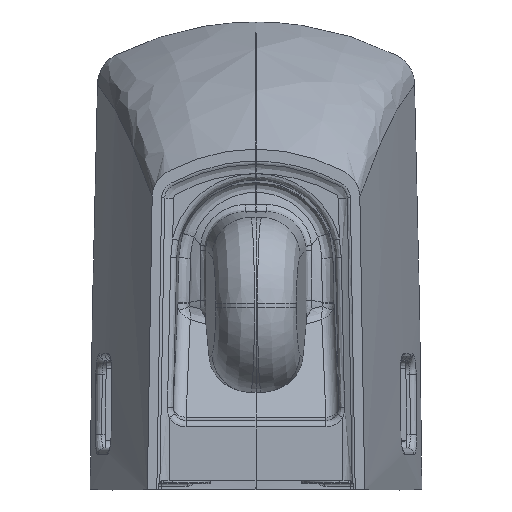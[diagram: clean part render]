
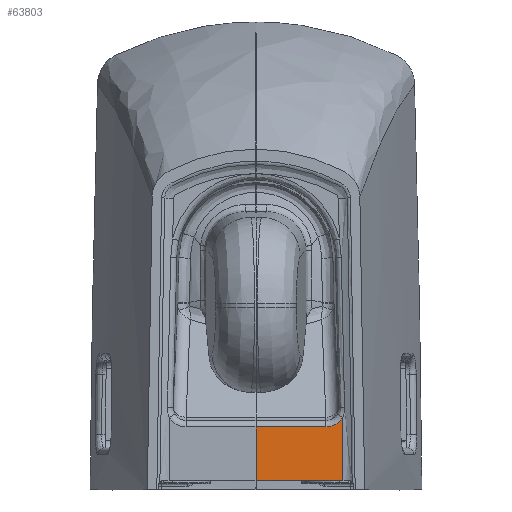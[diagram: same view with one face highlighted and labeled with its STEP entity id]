
A CAD part, front view. The second image highlights one B-rep face of the part: STEP entity #63803.
In plain terms, the highlighted planar face has unit normal (0, -1, 0).
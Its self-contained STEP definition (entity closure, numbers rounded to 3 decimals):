
#101 = EDGE_CURVE ( 'NONE', #79895, #5814, #17156, .T. ) ;
#392 = ORIENTED_EDGE ( 'NONE', *, *, #41656, .T. ) ;
#1113 = CARTESIAN_POINT ( 'NONE',  ( 448.984, -92.174, 231.972 ) ) ;
#1466 = DIRECTION ( 'NONE',  ( 0., -1., 0. ) ) ;
#1927 = CARTESIAN_POINT ( 'NONE',  ( 448.984, -92.174, 51.233 ) ) ;
#2162 = CARTESIAN_POINT ( 'NONE',  ( 542.601, -92.174, 61.585 ) ) ;
#2798 = CARTESIAN_POINT ( 'NONE',  ( 539.483, -92.174, 57.519 ) ) ;
#3451 = CARTESIAN_POINT ( 'NONE',  ( 534.522, -92.174, 53.773 ) ) ;
#3524 = CARTESIAN_POINT ( 'NONE',  ( 542.766, -92.174, 38.469 ) ) ;
#4121 = CARTESIAN_POINT ( 'NONE',  ( 530.579, -92.174, 52.13 ) ) ;
#4778 = CARTESIAN_POINT ( 'NONE',  ( 529.857, -92.174, 51.928 ) ) ;
#5814 = VERTEX_POINT ( 'NONE', #38667 ) ;
#8647 = CARTESIAN_POINT ( 'NONE',  ( 524.499, -92.174, 51.233 ) ) ;
#10566 = CARTESIAN_POINT ( 'NONE',  ( 539.405, -92.174, 57.439 ) ) ;
#11224 = CARTESIAN_POINT ( 'NONE',  ( 533.906, -92.174, 53.448 ) ) ;
#11292 = CARTESIAN_POINT ( 'NONE',  ( 542.601, -92.174, 61.585 ) ) ;
#11415 = B_SPLINE_CURVE_WITH_KNOTS ( 'NONE', 3,
 ( #33880, #34210, #3524, #11292 ),
 .UNSPECIFIED., .F., .F.,
 ( 4, 4 ),
 ( 0., 1. ),
 .UNSPECIFIED. ) ;
#11445 = VERTEX_POINT ( 'NONE', #84463 ) ;
#12683 = LINE ( 'NONE', #15769, #91061 ) ;
#12875 = CARTESIAN_POINT ( 'NONE',  ( 524.499, -92.174, 51.233 ) ) ;
#14776 = DIRECTION ( 'NONE',  ( -1., 0., 0. ) ) ;
#15769 = CARTESIAN_POINT ( 'NONE',  ( 334.98, -92.174, -6.766 ) ) ;
#16606 = DIRECTION ( 'NONE',  ( 0., 0., -1. ) ) ;
#17156 = LINE ( 'NONE', #1927, #44924 ) ;
#18280 = CARTESIAN_POINT ( 'NONE',  ( 539.872, -92.174, 57.922 ) ) ;
#18615 = CARTESIAN_POINT ( 'NONE',  ( 542.146, -92.174, 60.811 ) ) ;
#19623 = CARTESIAN_POINT ( 'NONE',  ( 533.17, -92.174, 53.104 ) ) ;
#20267 = CARTESIAN_POINT ( 'NONE',  ( 526.262, -92.174, 51.289 ) ) ;
#22642 = EDGE_CURVE ( 'NONE', #11445, #24153, #12683, .T. ) ;
#24153 = VERTEX_POINT ( 'NONE', #56547 ) ;
#24376 = CARTESIAN_POINT ( 'NONE',  ( 448.984, -92.174, 231.972 ) ) ;
#24710 = DIRECTION ( 'NONE',  ( 0., 0., -1. ) ) ;
#25067 = B_SPLINE_CURVE_WITH_KNOTS ( 'NONE', 3,
 ( #49967, #18615, #56399, #25718, #18280, #95092, #2798, #10566, #72163, #64412, #95422, #57063, #64750, #72497, #34136, #95761, #3451, #11224, #19623, #97413, #65738, #58355, #88665, #82220, #4121, #50945, #35453, #27386, #4778, #66373, #67043, #28034, #27703, #96432, #36103, #74144, #20267, #81887, #12875 ),
 .UNSPECIFIED., .F., .F.,
 ( 4, 1, 1, 1, 1, 2, 2, 1, 2, 2, 2, 1, 1, 2, 2, 1, 1, 1, 2, 2, 1, 1, 1, 2, 2, 4 ),
 ( 0., 0.125, 0.188, 0.219, 0.234, 0.242, 0.25, 0.313, 0.344, 0.375, 0.5, 0.563, 0.594, 0.609, 0.625, 0.688, 0.719, 0.734, 0.742, 0.75, 0.812, 0.844, 0.859, 0.867, 0.875, 1. ),
 .UNSPECIFIED. ) ;
#25718 = CARTESIAN_POINT ( 'NONE',  ( 540.399, -92.174, 58.5 ) ) ;
#27386 = CARTESIAN_POINT ( 'NONE',  ( 529.914, -92.174, 51.943 ) ) ;
#27703 = CARTESIAN_POINT ( 'NONE',  ( 527.531, -92.174, 51.453 ) ) ;
#28034 = CARTESIAN_POINT ( 'NONE',  ( 527.923, -92.174, 51.512 ) ) ;
#33880 = CARTESIAN_POINT ( 'NONE',  ( 542.808, -92.174, -6.766 ) ) ;
#34136 = CARTESIAN_POINT ( 'NONE',  ( 536.507, -92.174, 54.979 ) ) ;
#34210 = CARTESIAN_POINT ( 'NONE',  ( 542.835, -92.174, 15.685 ) ) ;
#35453 = CARTESIAN_POINT ( 'NONE',  ( 530.025, -92.174, 51.973 ) ) ;
#35695 = EDGE_CURVE ( 'NONE', #54299, #79895, #25067, .T. ) ;
#36103 = CARTESIAN_POINT ( 'NONE',  ( 527.251, -92.174, 51.414 ) ) ;
#38667 = CARTESIAN_POINT ( 'NONE',  ( 448.984, -92.174, 51.233 ) ) ;
#41656 = EDGE_CURVE ( 'NONE', #5814, #24153, #63039, .T. ) ;
#44924 = VECTOR ( 'NONE', #14776, 1000. ) ;
#49967 = CARTESIAN_POINT ( 'NONE',  ( 542.601, -92.174, 61.585 ) ) ;
#50945 = CARTESIAN_POINT ( 'NONE',  ( 530.192, -92.174, 52.019 ) ) ;
#54299 = VERTEX_POINT ( 'NONE', #2162 ) ;
#56399 = CARTESIAN_POINT ( 'NONE',  ( 541.395, -92.174, 59.702 ) ) ;
#56547 = CARTESIAN_POINT ( 'NONE',  ( 448.984, -92.174, -6.766 ) ) ;
#57063 = CARTESIAN_POINT ( 'NONE',  ( 537.967, -92.174, 56.118 ) ) ;
#58355 = CARTESIAN_POINT ( 'NONE',  ( 532.529, -92.174, 52.829 ) ) ;
#62328 = ORIENTED_EDGE ( 'NONE', *, *, #22642, .F. ) ;
#63039 = LINE ( 'NONE', #1113, #91865 ) ;
#63803 = ADVANCED_FACE ( 'NONE', ( #89654 ), #70491, .T. ) ;
#64412 = CARTESIAN_POINT ( 'NONE',  ( 538.999, -92.174, 57.034 ) ) ;
#64750 = CARTESIAN_POINT ( 'NONE',  ( 537.61, -92.174, 55.826 ) ) ;
#65738 = CARTESIAN_POINT ( 'NONE',  ( 532.637, -92.174, 52.874 ) ) ;
#66373 = CARTESIAN_POINT ( 'NONE',  ( 529.364, -92.174, 51.8 ) ) ;
#67043 = CARTESIAN_POINT ( 'NONE',  ( 528.703, -92.174, 51.65 ) ) ;
#70491 = PLANE ( 'NONE',  #93556 ) ;
#72163 = CARTESIAN_POINT ( 'NONE',  ( 539.366, -92.174, 57.4 ) ) ;
#72497 = CARTESIAN_POINT ( 'NONE',  ( 537.431, -92.174, 55.685 ) ) ;
#74144 = CARTESIAN_POINT ( 'NONE',  ( 527.193, -92.174, 51.407 ) ) ;
#77739 = DIRECTION ( 'NONE',  ( -1., 0., 0. ) ) ;
#77993 = ORIENTED_EDGE ( 'NONE', *, *, #78568, .T. ) ;
#78568 = EDGE_CURVE ( 'NONE', #11445, #54299, #11415, .T. ) ;
#78598 = ORIENTED_EDGE ( 'NONE', *, *, #101, .T. ) ;
#79895 = VERTEX_POINT ( 'NONE', #8647 ) ;
#81887 = CARTESIAN_POINT ( 'NONE',  ( 525.382, -92.174, 51.233 ) ) ;
#82220 = CARTESIAN_POINT ( 'NONE',  ( 531.348, -92.174, 52.372 ) ) ;
#84454 = EDGE_LOOP ( 'NONE', ( #78598, #392, #62328, #77993, #93970 ) ) ;
#84463 = CARTESIAN_POINT ( 'NONE',  ( 542.808, -92.174, -6.766 ) ) ;
#88665 = CARTESIAN_POINT ( 'NONE',  ( 531.995, -92.174, 52.611 ) ) ;
#89654 = FACE_OUTER_BOUND ( 'NONE', #84454, .T. ) ;
#91061 = VECTOR ( 'NONE', #77739, 1000. ) ;
#91865 = VECTOR ( 'NONE', #16606, 1000. ) ;
#93556 = AXIS2_PLACEMENT_3D ( 'NONE', #24376, #1466, #24710 ) ;
#93970 = ORIENTED_EDGE ( 'NONE', *, *, #35695, .T. ) ;
#95092 = CARTESIAN_POINT ( 'NONE',  ( 539.601, -92.174, 57.639 ) ) ;
#95422 = CARTESIAN_POINT ( 'NONE',  ( 538.494, -92.174, 56.563 ) ) ;
#95761 = CARTESIAN_POINT ( 'NONE',  ( 535.733, -92.174, 54.466 ) ) ;
#96432 = CARTESIAN_POINT ( 'NONE',  ( 527.363, -92.174, 51.43 ) ) ;
#97413 = CARTESIAN_POINT ( 'NONE',  ( 532.851, -92.174, 52.965 ) ) ;
